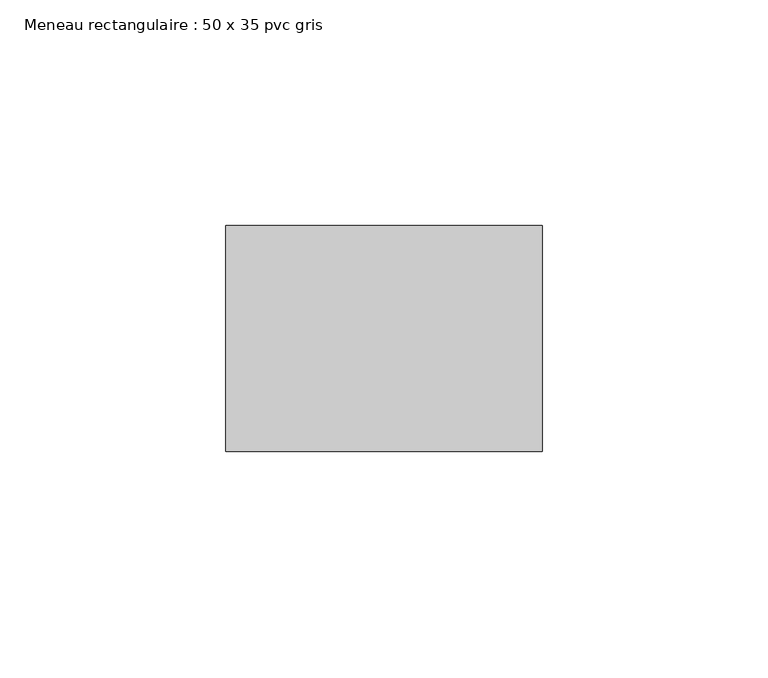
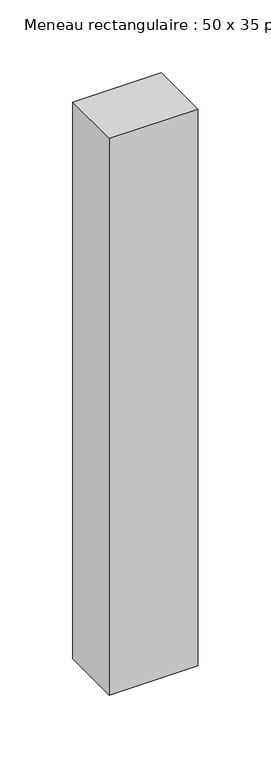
"""IFC4 building model written with IfcOpenShell, lengths in millimetres: member geometry, Meneau rectangulaire : 50 x 35 pvc gris."""

from ifc_helpers import new_model, si_unit, frame, origin, place, context, project, spatial, polyline, outline, extrude, source, transform, mapped, element, save


def meneau_rectangulaire_50_x_35_pvc_gris_a551ae19(model_context):
    return source(origin(), model_context, "Body", "SweptSolid", [
        extrude(outline(polyline([(35.0, 0.0), (35.0, -50.0), (-35.0, -50.0), (-35.0, 0.0), (35.0, 0.0)])), frame((0.0, 0.0, -466.3632634), z_axis=(0.0, 0.0, 1.0), x_axis=(1.0, 0.0, 0.0)), (0.0, 0.0, 1.0), 466.3632634),
    ])


if __name__ == "__main__":
    model = new_model("IFC4")
    model_context = context("Model", 3, world=origin())
    ifc_project = project(units=[si_unit("LENGTHUNIT", "METRE", prefix="MILLI")], contexts=[model_context])
    site = spatial("IfcSite", under=ifc_project)
    building = spatial("IfcBuilding", under=site)
    placement = place(None, origin())
    meneau_rectangulaire_50_x_35_pvc_gris_shape = meneau_rectangulaire_50_x_35_pvc_gris_a551ae19(model_context)
    element("IfcMember", 1, ObjectType="Meneau rectangulaire : 50 x 35 pvc gris", at=placement, inside=building, context=model_context, shape_type="MappedRepresentation", body=[
        mapped(meneau_rectangulaire_50_x_35_pvc_gris_shape, transform((0.0, 0.0, 0.0), x_axis=(1.0, 0.0, 0.0), y_axis=(0.0, 1.0, 0.0), z_axis=(0.0, 0.0, 1.0))),
    ])
    save(model, "model.ifc")
